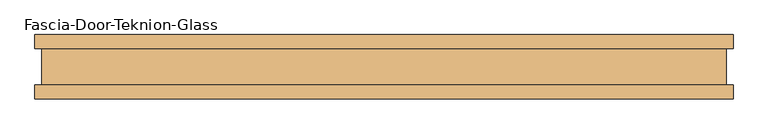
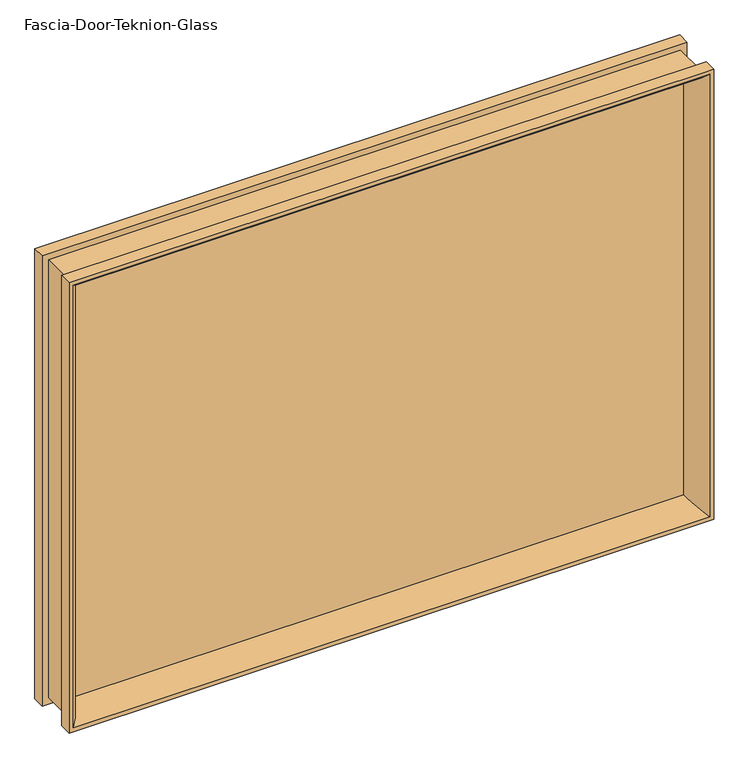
"""IFC4 building model written with IfcOpenShell, lengths in millimetres: door geometry, Fascia-Door-Teknion-Glass : FPGC."""

from ifc_helpers import new_model, si_unit, frame, origin, place, context, project, spatial, polyline, ellipse_curve, outline, extrude, source, transform, mapped, element, save
from ifc_brep_helpers import plane_surface, cylinder_surface, advanced_brep


def fascia_door_teknion_glass_e03882a7(model_context):
    return source(origin(), model_context, "Body", "SolidModel", [
        advanced_brep(
        [(517.9824894, -5.0827449, 779.5923332), (517.9824894, -5.0827449, 28.1276668), (535.9373398, -50.0558594, 10.1728164), (535.9373398, -50.0558594, 797.5471836), (528.4726805, 5.0827449, 790.0825243), (528.4726805, 5.0827449, 17.6374757), (528.4726805, -5.0827449, 17.6374757), (528.4726805, -5.0827449, 790.0825243), (535.9373398, 50.0558594, 797.5471836), (535.9373398, 50.0558594, 10.1728164), (517.9824894, 5.0827449, 28.1276668), (517.9824894, 5.0827449, 779.5923332), (542.9351562, 28.8801202, 804.545), (542.9351562, 28.8801202, 3.175), (542.9351562, 50.0558594, 3.175), (542.9351562, 50.0558594, 804.545), (532.1101563, -28.2698798, 793.7200001), (532.1101563, -28.2698798, 13.9999999), (532.1101563, 28.8801202, 13.9999999), (532.1101563, 28.8801202, 793.7200001), (542.9351562, -50.0558594, 804.545), (542.9351562, -50.0558594, 3.175), (542.9351562, -28.2698798, 3.175), (542.9351562, -28.2698798, 804.545), (-517.9824894, -5.0827449, 28.1276668), (-535.9373398, -50.0558594, 10.1728164), (-528.4726805, 5.0827449, 17.6374757), (-528.4726805, -5.0827449, 17.6374757), (-535.9373398, 50.0558594, 10.1728164), (-517.9824894, 5.0827449, 28.1276668), (-542.9351562, 28.8801202, 3.175), (-542.9351562, 50.0558594, 3.175), (-532.1101562, -28.2698798, 13.9999999), (-532.1101562, 28.8801202, 13.9999999), (-542.9351562, -50.0558594, 3.175), (-542.9351562, -28.2698798, 3.175), (-517.9824894, -5.0827449, 779.5923332), (-535.9373398, -50.0558594, 797.5471836), (-528.4726805, 5.0827449, 790.0825243), (-528.4726805, -5.0827449, 790.0825243), (-535.9373398, 50.0558594, 797.5471836), (-517.9824894, 5.0827449, 779.5923332), (-542.9351562, 28.8801202, 804.545), (-542.9351562, 50.0558594, 804.545), (-532.1101562, -28.2698798, 793.7200001), (-532.1101562, 28.8801202, 793.7200001), (-542.9351562, -50.0558594, 804.545), (-542.9351562, -28.2698798, 804.545)],
        [
            (0, 1),
            (1, 2, ellipse_curve(frame((570.0687267, -10.3587469, -23.9585705), z_axis=(0.7071067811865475, 0.0, 0.7071067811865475), x_axis=(-0.7071067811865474, 0.0, 0.7071067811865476)), 74.0379946, 52.352768)),
            (2, 3),
            (3, 0, ellipse_curve(frame((570.0687267, -10.3587469, 831.6785705), z_axis=(0.7071067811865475, 0.0, -0.7071067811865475), x_axis=(0.7071067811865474, 0.0, 0.7071067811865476)), 74.0379946, 52.352768)),
            (4, 5),
            (5, 6),
            (6, 7),
            (7, 4),
            (8, 9),
            (9, 10, ellipse_curve(frame((570.0687267, 10.3587469, -23.9585705), z_axis=(0.7071067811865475, 0.0, 0.7071067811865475), x_axis=(-0.7071067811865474, 0.0, 0.7071067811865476)), 74.0379946, 52.352768)),
            (10, 11),
            (11, 8, ellipse_curve(frame((570.0687267, 10.3587469, 831.6785705), z_axis=(0.7071067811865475, 0.0, -0.7071067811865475), x_axis=(0.7071067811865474, 0.0, 0.7071067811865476)), 74.0379946, 52.352768)),
            (12, 13),
            (13, 14),
            (14, 15),
            (15, 12),
            (16, 17),
            (17, 18),
            (18, 19),
            (19, 16),
            (20, 21),
            (21, 22),
            (22, 23),
            (23, 20),
            (1, 24),
            (24, 25, ellipse_curve(frame((-570.0687267, -10.3587469, -23.9585705), z_axis=(0.7071067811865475, 0.0, -0.7071067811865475), x_axis=(0.7071067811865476, 0.0, 0.7071067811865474)), 74.0379946, 52.352768)),
            (25, 2),
            (5, 26),
            (26, 27),
            (27, 6),
            (9, 28),
            (28, 29, ellipse_curve(frame((-570.0687267, 10.3587469, -23.9585705), z_axis=(0.7071067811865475, 0.0, -0.7071067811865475), x_axis=(0.7071067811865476, 0.0, 0.7071067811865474)), 74.0379946, 52.352768)),
            (29, 10),
            (13, 30),
            (30, 31),
            (31, 14),
            (17, 32),
            (32, 33),
            (33, 18),
            (21, 34),
            (34, 35),
            (35, 22),
            (24, 36),
            (36, 37, ellipse_curve(frame((-570.0687267, -10.3587469, 831.6785705), z_axis=(-0.7071067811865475, 0.0, -0.7071067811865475), x_axis=(0.7071067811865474, 0.0, -0.7071067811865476)), 74.0379946, 52.352768)),
            (37, 25),
            (26, 38),
            (38, 39),
            (39, 27),
            (28, 40),
            (40, 41, ellipse_curve(frame((-570.0687267, 10.3587469, 831.6785705), z_axis=(-0.7071067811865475, 0.0, -0.7071067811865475), x_axis=(0.7071067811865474, 0.0, -0.7071067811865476)), 74.0379946, 52.352768)),
            (41, 29),
            (30, 42),
            (42, 43),
            (43, 31),
            (32, 44),
            (44, 45),
            (45, 33),
            (34, 46),
            (46, 47),
            (47, 35),
            (20, 46),
            (37, 3),
            (36, 0),
            (39, 7),
            (38, 4),
            (41, 11),
            (40, 8),
            (43, 15),
            (42, 12),
            (45, 19),
            (44, 16),
            (47, 23),
        ],
        [
            cylinder_surface(frame((570.0687267, -10.3587469, 804.545), z_axis=(0.0, 0.0, 1.0), x_axis=(1.0, 0.0, 0.0)), 52.352768),
            plane_surface(frame((528.4726805, -5.0827449, 790.0825243), z_axis=(-1.0, 0.0, 0.0), x_axis=(0.0, 0.0, -1.0))),
            cylinder_surface(frame((570.0687267, 10.3587469, 804.545), z_axis=(0.0, 0.0, 1.0), x_axis=(1.0, 0.0, 0.0)), 52.352768),
            plane_surface(frame((542.9351562, 50.0558594, 804.545), z_axis=(1.0, 0.0, 0.0), x_axis=(0.0, 0.0, -1.0))),
            plane_surface(frame((532.1101563, 28.8801202, 793.7200001), z_axis=(1.0, 0.0, 0.0), x_axis=(0.0, 0.0, -1.0))),
            plane_surface(frame((542.9351562, -28.2698798, 804.545), z_axis=(1.0, 0.0, 0.0), x_axis=(0.0, 0.0, -1.0))),
            cylinder_surface(frame((542.9351562, -10.3587469, -23.9585705), z_axis=(1.0, 0.0, 0.0), x_axis=(0.0, 0.0, -1.0)), 52.352768),
            plane_surface(frame((528.4726805, -5.0827449, 17.6374757), z_axis=(0.0, 0.0, 1.0), x_axis=(-1.0, 0.0, 0.0))),
            cylinder_surface(frame((542.9351562, 10.3587469, -23.9585705), z_axis=(1.0, 0.0, 0.0), x_axis=(0.0, 0.0, -1.0)), 52.352768),
            plane_surface(frame((542.9351562, 50.0558594, 3.175), z_axis=(0.0, 0.0, -1.0), x_axis=(-1.0, 0.0, 0.0))),
            plane_surface(frame((532.1101563, 28.8801202, 13.9999999), z_axis=(0.0, 0.0, -1.0), x_axis=(-1.0, 0.0, 0.0))),
            plane_surface(frame((542.9351562, -28.2698798, 3.175), z_axis=(0.0, 0.0, -1.0), x_axis=(-1.0, 0.0, 0.0))),
            cylinder_surface(frame((-570.0687267, -10.3587469, 3.175), z_axis=(0.0, 0.0, -1.0), x_axis=(-1.0, 0.0, 0.0)), 52.352768),
            plane_surface(frame((-528.4726805, -5.0827449, 17.6374757), z_axis=(1.0, 0.0, 0.0), x_axis=(0.0, 0.0, 1.0))),
            cylinder_surface(frame((-570.0687267, 10.3587469, 3.175), z_axis=(0.0, 0.0, -1.0), x_axis=(-1.0, 0.0, 0.0)), 52.352768),
            plane_surface(frame((-542.9351562, 50.0558594, 3.175), z_axis=(-1.0, 0.0, 0.0), x_axis=(0.0, 0.0, 1.0))),
            plane_surface(frame((-532.1101562, 28.8801202, 13.9999999), z_axis=(-1.0, 0.0, 0.0), x_axis=(0.0, 0.0, 1.0))),
            plane_surface(frame((-542.9351562, -28.2698798, 3.175), z_axis=(-1.0, 0.0, 0.0), x_axis=(0.0, 0.0, 1.0))),
            plane_surface(frame((-542.9351562, -50.0558594, 804.545), z_axis=(0.0, -1.0, 0.0), x_axis=(1.0, 0.0, 0.0))),
            cylinder_surface(frame((-542.9351562, -10.3587469, 831.6785705), z_axis=(-1.0, 0.0, 0.0), x_axis=(0.0, 0.0, 1.0)), 52.352768),
            plane_surface(frame((-517.9824894, -5.0827449, 779.5923332), z_axis=(0.0, 1.0, 0.0), x_axis=(1.0, 0.0, 0.0))),
            plane_surface(frame((-528.4726805, -5.0827449, 790.0825243), z_axis=(0.0, 0.0, -1.0), x_axis=(1.0, 0.0, 0.0))),
            plane_surface(frame((-528.4726805, 5.0827449, 790.0825243), z_axis=(0.0, -1.0, 0.0), x_axis=(1.0, 0.0, 0.0))),
            cylinder_surface(frame((-542.9351562, 10.3587469, 831.6785705), z_axis=(-1.0, 0.0, 0.0), x_axis=(0.0, 0.0, 1.0)), 52.352768),
            plane_surface(frame((-535.9373398, 50.0558594, 797.5471836), z_axis=(0.0, 1.0, 0.0), x_axis=(1.0, 0.0, 0.0))),
            plane_surface(frame((-542.9351562, 50.0558594, 804.545), z_axis=(0.0, 0.0, 1.0), x_axis=(1.0, 0.0, 0.0))),
            plane_surface(frame((-542.9351562, 28.8801202, 804.545), z_axis=(0.0, -1.0, 0.0), x_axis=(1.0, 0.0, 0.0))),
            plane_surface(frame((-532.1101562, 28.8801202, 793.7200001), z_axis=(0.0, 0.0, 1.0), x_axis=(1.0, 0.0, 0.0))),
            plane_surface(frame((-532.1101562, -28.2698798, 793.7200001), z_axis=(0.0, 1.0, 0.0), x_axis=(1.0, 0.0, 0.0))),
            plane_surface(frame((-542.9351562, -28.2698798, 804.545), z_axis=(0.0, 0.0, 1.0), x_axis=(1.0, 0.0, 0.0))),
        ],
        [
            (0, [[1, 2, 3, 4]]),
            (1, [[5, 6, 7, 8]]),
            (2, [[9, 10, 11, 12]]),
            (3, [[13, 14, 15, 16]]),
            (4, [[17, 18, 19, 20]]),
            (5, [[21, 22, 23, 24]]),
            (6, [[25, 26, 27, -2]]),
            (7, [[28, 29, 30, -6]]),
            (8, [[31, 32, 33, -10]]),
            (9, [[34, 35, 36, -14]]),
            (10, [[37, 38, 39, -18]]),
            (11, [[40, 41, 42, -22]]),
            (12, [[43, 44, 45, -26]]),
            (13, [[46, 47, 48, -29]]),
            (14, [[49, 50, 51, -32]]),
            (15, [[52, 53, 54, -35]]),
            (16, [[55, 56, 57, -38]]),
            (17, [[58, 59, 60, -41]]),
            (18, [[-21, 61, -58, -40], [-3, -27, -45, 62]]),
            (19, [[63, -4, -62, -44]]),
            (20, [[-7, -30, -48, 64], [-1, -63, -43, -25]]),
            (21, [[65, -8, -64, -47]]),
            (22, [[-5, -65, -46, -28], [-11, -33, -51, 66]]),
            (23, [[67, -12, -66, -50]]),
            (24, [[-15, -36, -54, 68], [-9, -67, -49, -31]]),
            (25, [[69, -16, -68, -53]]),
            (26, [[-13, -69, -52, -34], [-19, -39, -57, 70]]),
            (27, [[71, -20, -70, -56]]),
            (28, [[-23, -42, -60, 72], [-17, -71, -55, -37]]),
            (29, [[-61, -24, -72, -59]]),
        ],
    ),
        extrude(outline(polyline([(528.4726805, -2.9765625), (-528.4726805, -2.9765625), (-528.4726805, 2.9765625), (528.4726805, 2.9765625), (528.4726805, -2.9765625)])), frame((0.0, 0.0, 17.6374757), z_axis=(0.0, 0.0, 1.0), x_axis=(1.0, 0.0, 0.0)), (0.0, 0.0, 1.0), 772.4450485),
    ])


if __name__ == "__main__":
    model = new_model("IFC4")
    model_context = context("Model", 3, world=origin())
    ifc_project = project(units=[si_unit("LENGTHUNIT", "METRE", prefix="MILLI")], contexts=[model_context])
    site = spatial("IfcSite", under=ifc_project)
    building = spatial("IfcBuilding", under=site)
    placement = place(None, origin())
    fascia_door_teknion_glass_shape = fascia_door_teknion_glass_e03882a7(model_context)
    element("IfcDoor", 1, ObjectType="Fascia-Door-Teknion-Glass : FPGC", at=placement, inside=building, context=model_context, shape_type="MappedRepresentation", body=[
        mapped(fascia_door_teknion_glass_shape, transform((0.0, 0.0, 0.0), x_axis=(1.0, 0.0, 0.0), y_axis=(0.0, 1.0, 0.0), z_axis=(0.0, 0.0, 1.0))),
    ])
    save(model, "model.ifc")
